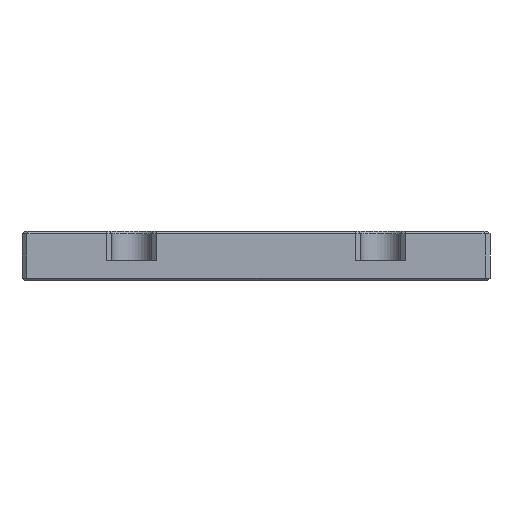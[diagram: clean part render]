
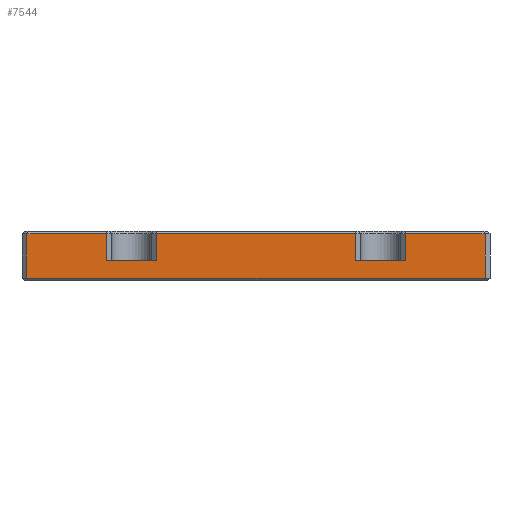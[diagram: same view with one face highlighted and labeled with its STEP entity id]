
A CAD part, front view. The second image highlights one B-rep face of the part: STEP entity #7544.
In plain terms, the highlighted planar face has unit normal (0, -1, 0).
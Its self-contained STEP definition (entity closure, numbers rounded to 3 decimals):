
#156 = VECTOR ( 'NONE', #3489, 1000. ) ;
#307 = DIRECTION ( 'NONE',  ( 1., 0., 0. ) ) ;
#371 = VECTOR ( 'NONE', #7231, 1000. ) ;
#461 = VERTEX_POINT ( 'NONE', #1414 ) ;
#567 = ORIENTED_EDGE ( 'NONE', *, *, #2200, .T. ) ;
#599 = VERTEX_POINT ( 'NONE', #6655 ) ;
#611 = CARTESIAN_POINT ( 'NONE',  ( 30., -55., 10. ) ) ;
#794 = CARTESIAN_POINT ( 'NONE',  ( -20., -55., 9.5 ) ) ;
#830 = EDGE_CURVE ( 'NONE', #6353, #1358, #6386, .T. ) ;
#879 = EDGE_CURVE ( 'NONE', #3009, #7337, #3007, .T. ) ;
#912 = CARTESIAN_POINT ( 'NONE',  ( 30., -55., 9.5 ) ) ;
#986 = CARTESIAN_POINT ( 'NONE',  ( -30., -55., 10. ) ) ;
#1021 = LINE ( 'NONE', #8672, #3015 ) ;
#1022 = VERTEX_POINT ( 'NONE', #3909 ) ;
#1203 = DIRECTION ( 'NONE',  ( -1., 0., 0. ) ) ;
#1358 = VERTEX_POINT ( 'NONE', #7833 ) ;
#1387 = EDGE_CURVE ( 'NONE', #6353, #8407, #1021, .T. ) ;
#1406 = CARTESIAN_POINT ( 'NONE',  ( 30., -55., 4. ) ) ;
#1414 = CARTESIAN_POINT ( 'NONE',  ( 46., -55., 0.5 ) ) ;
#1417 = ORIENTED_EDGE ( 'NONE', *, *, #7404, .F. ) ;
#1538 = EDGE_CURVE ( 'NONE', #2194, #2118, #8802, .T. ) ;
#1785 = CARTESIAN_POINT ( 'NONE',  ( 20., -55., 9.5 ) ) ;
#2030 = CARTESIAN_POINT ( 'NONE',  ( -46., -55., 0.5 ) ) ;
#2054 = VECTOR ( 'NONE', #7589, 1000. ) ;
#2118 = VERTEX_POINT ( 'NONE', #1406 ) ;
#2166 = CARTESIAN_POINT ( 'NONE',  ( -47., -55., 10. ) ) ;
#2194 = VERTEX_POINT ( 'NONE', #912 ) ;
#2200 = EDGE_CURVE ( 'NONE', #599, #4200, #2979, .T. ) ;
#2226 = CARTESIAN_POINT ( 'NONE',  ( -20., -55., 10. ) ) ;
#2434 = CARTESIAN_POINT ( 'NONE',  ( 20., -55., 10. ) ) ;
#2515 = AXIS2_PLACEMENT_3D ( 'NONE', #2166, #6877, #2745 ) ;
#2589 = VECTOR ( 'NONE', #6679, 1000. ) ;
#2745 = DIRECTION ( 'NONE',  ( 0., 0., 1. ) ) ;
#2876 = LINE ( 'NONE', #4140, #3344 ) ;
#2923 = DIRECTION ( 'NONE',  ( -1., 0., 0. ) ) ;
#2938 = CARTESIAN_POINT ( 'NONE',  ( -47., -55., 9.5 ) ) ;
#2979 = LINE ( 'NONE', #2434, #4757 ) ;
#3007 = LINE ( 'NONE', #5747, #3091 ) ;
#3009 = VERTEX_POINT ( 'NONE', #6539 ) ;
#3015 = VECTOR ( 'NONE', #307, 1000. ) ;
#3017 = LINE ( 'NONE', #5671, #371 ) ;
#3091 = VECTOR ( 'NONE', #8289, 1000. ) ;
#3136 = ORIENTED_EDGE ( 'NONE', *, *, #1538, .T. ) ;
#3187 = CARTESIAN_POINT ( 'NONE',  ( -47., -55., 9.5 ) ) ;
#3322 = EDGE_LOOP ( 'NONE', ( #567, #5727, #5474, #7111, #4309, #4702, #8048, #7877, #4781, #4840, #3136, #1417 ) ) ;
#3344 = VECTOR ( 'NONE', #2923, 1000. ) ;
#3489 = DIRECTION ( 'NONE',  ( 0., 0., -1. ) ) ;
#3689 = EDGE_CURVE ( 'NONE', #461, #1022, #7549, .T. ) ;
#3702 = EDGE_CURVE ( 'NONE', #1358, #3009, #2876, .T. ) ;
#3830 = CARTESIAN_POINT ( 'NONE',  ( -30., -55., 4. ) ) ;
#3909 = CARTESIAN_POINT ( 'NONE',  ( 46., -55., 9.5 ) ) ;
#3948 = VECTOR ( 'NONE', #6351, 1000. ) ;
#4101 = PLANE ( 'NONE',  #2515 ) ;
#4140 = CARTESIAN_POINT ( 'NONE',  ( -47., -55., 9.5 ) ) ;
#4185 = CARTESIAN_POINT ( 'NONE',  ( 46., -55., 10. ) ) ;
#4192 = LINE ( 'NONE', #6927, #3948 ) ;
#4200 = VERTEX_POINT ( 'NONE', #1785 ) ;
#4309 = ORIENTED_EDGE ( 'NONE', *, *, #830, .T. ) ;
#4617 = LINE ( 'NONE', #3187, #4669 ) ;
#4669 = VECTOR ( 'NONE', #1203, 1000. ) ;
#4702 = ORIENTED_EDGE ( 'NONE', *, *, #3702, .T. ) ;
#4757 = VECTOR ( 'NONE', #5182, 1000. ) ;
#4769 = EDGE_CURVE ( 'NONE', #7337, #461, #4192, .T. ) ;
#4781 = ORIENTED_EDGE ( 'NONE', *, *, #3689, .T. ) ;
#4840 = ORIENTED_EDGE ( 'NONE', *, *, #6861, .T. ) ;
#4923 = LINE ( 'NONE', #2226, #156 ) ;
#5182 = DIRECTION ( 'NONE',  ( 0., 0., 1. ) ) ;
#5387 = VECTOR ( 'NONE', #6246, 1000. ) ;
#5426 = EDGE_CURVE ( 'NONE', #4200, #6513, #4617, .T. ) ;
#5474 = ORIENTED_EDGE ( 'NONE', *, *, #6886, .T. ) ;
#5604 = VECTOR ( 'NONE', #6312, 1000. ) ;
#5671 = CARTESIAN_POINT ( 'NONE',  ( 21., -55., 4. ) ) ;
#5727 = ORIENTED_EDGE ( 'NONE', *, *, #5426, .T. ) ;
#5747 = CARTESIAN_POINT ( 'NONE',  ( -46., -55., 10. ) ) ;
#6246 = DIRECTION ( 'NONE',  ( 0., 0., 1. ) ) ;
#6312 = DIRECTION ( 'NONE',  ( -1., 0., 0. ) ) ;
#6351 = DIRECTION ( 'NONE',  ( 1., 0., 0. ) ) ;
#6353 = VERTEX_POINT ( 'NONE', #3830 ) ;
#6386 = LINE ( 'NONE', #986, #5387 ) ;
#6513 = VERTEX_POINT ( 'NONE', #794 ) ;
#6539 = CARTESIAN_POINT ( 'NONE',  ( -46., -55., 9.5 ) ) ;
#6655 = CARTESIAN_POINT ( 'NONE',  ( 20., -55., 4. ) ) ;
#6679 = DIRECTION ( 'NONE',  ( 0., 0., -1. ) ) ;
#6861 = EDGE_CURVE ( 'NONE', #1022, #2194, #8267, .T. ) ;
#6877 = DIRECTION ( 'NONE',  ( 0., 1., 0. ) ) ;
#6886 = EDGE_CURVE ( 'NONE', #6513, #8407, #4923, .T. ) ;
#6927 = CARTESIAN_POINT ( 'NONE',  ( 46., -55., 0.5 ) ) ;
#7111 = ORIENTED_EDGE ( 'NONE', *, *, #1387, .F. ) ;
#7231 = DIRECTION ( 'NONE',  ( 1., 0., 0. ) ) ;
#7337 = VERTEX_POINT ( 'NONE', #2030 ) ;
#7404 = EDGE_CURVE ( 'NONE', #599, #2118, #3017, .T. ) ;
#7544 = ADVANCED_FACE ( 'NONE', ( #8119 ), #4101, .F. ) ;
#7549 = LINE ( 'NONE', #4185, #2054 ) ;
#7589 = DIRECTION ( 'NONE',  ( 0., 0., 1. ) ) ;
#7833 = CARTESIAN_POINT ( 'NONE',  ( -30., -55., 9.5 ) ) ;
#7877 = ORIENTED_EDGE ( 'NONE', *, *, #4769, .T. ) ;
#8048 = ORIENTED_EDGE ( 'NONE', *, *, #879, .T. ) ;
#8119 = FACE_OUTER_BOUND ( 'NONE', #3322, .T. ) ;
#8267 = LINE ( 'NONE', #2938, #5604 ) ;
#8289 = DIRECTION ( 'NONE',  ( 0., 0., -1. ) ) ;
#8355 = CARTESIAN_POINT ( 'NONE',  ( -20., -55., 4. ) ) ;
#8407 = VERTEX_POINT ( 'NONE', #8355 ) ;
#8672 = CARTESIAN_POINT ( 'NONE',  ( -29., -55., 4. ) ) ;
#8802 = LINE ( 'NONE', #611, #2589 ) ;
